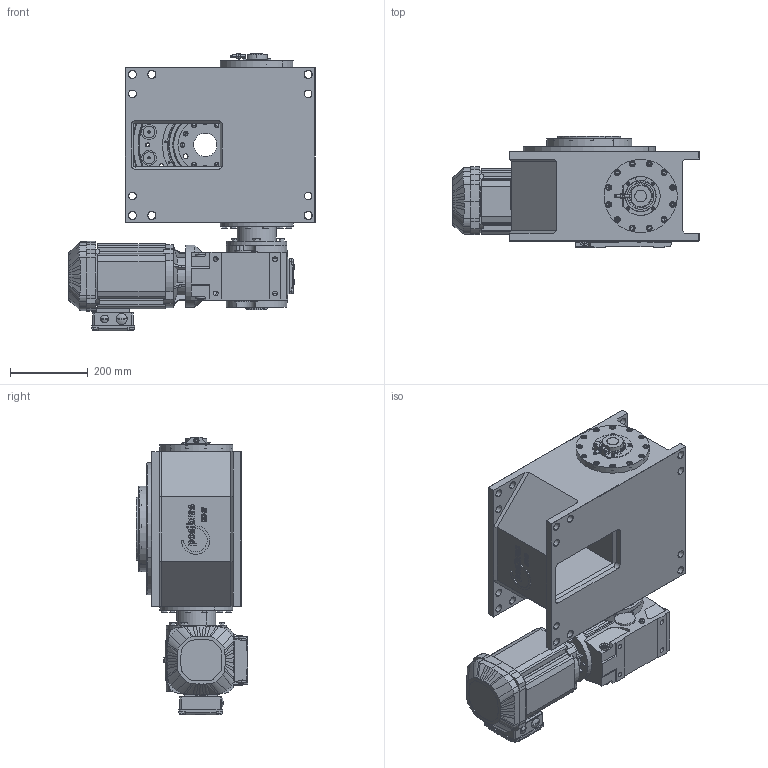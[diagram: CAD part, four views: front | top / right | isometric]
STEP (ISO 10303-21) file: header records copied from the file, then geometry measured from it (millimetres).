
FILE_DESCRIPTION (( 'STEP AP214' ), '1' );
FILE_NAME ('M340_SEW_KA57DRN90L4_D1_07.STEP', '2020-06-17T12:15:45', ( '' ), ( '' ), 'SwSTEP 2.0', 'SolidWorks 2020', '' );
FILE_SCHEMA (( 'AUTOMOTIVE_DESIGN' ));
Length unit declared in the file: millimetre
Products named in the file (1): M340_SEW_KA57DRN90L4_D1_07
Bounding box: 632 x 286 x 712.47 mm (x, y, z)
Surface area: 1715039.1 mm2 (no closed solid volume)
Topology: 0 solids, 125 shells, 1930 faces, 5917 edges, 3962 vertices
Faces by surface type: plane 922, cylinder 581, cone 225, bspline 106, torus 92, sphere 4
Entity records: 93704 total; most frequent: CARTESIAN_POINT 20558, DIRECTION 10826, ORIENTED_EDGE 9917, EDGE_CURVE 5863, VERTEX_POINT 3962, AXIS2_PLACEMENT_3D 3802, LINE 3222, VECTOR 3222
